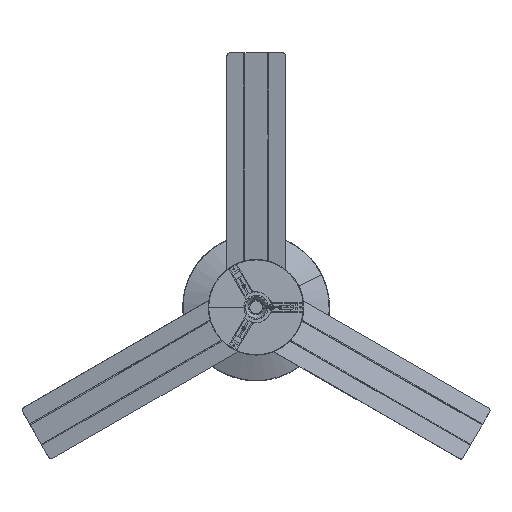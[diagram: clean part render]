
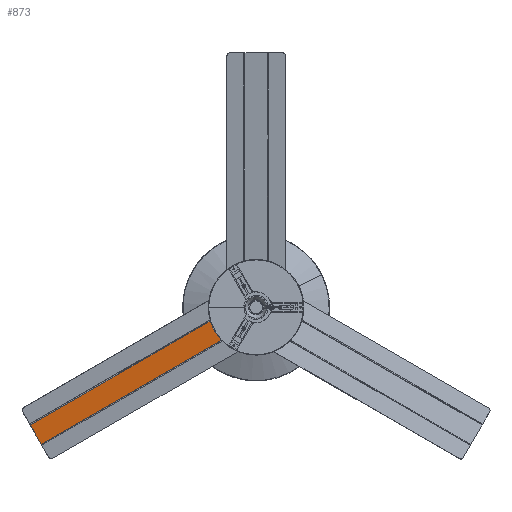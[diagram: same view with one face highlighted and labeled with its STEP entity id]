
A CAD part, top view. The second image highlights one B-rep face of the part: STEP entity #873.
In plain terms, the highlighted planar face has unit normal (0.113, -0.195, 0.974).
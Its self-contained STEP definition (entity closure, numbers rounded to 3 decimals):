
#181=FACE_BOUND('',#3090,.T.);
#873=ADVANCED_FACE('',(#1963,#181),#18264,.T.);
#1963=FACE_OUTER_BOUND('',#3089,.T.);
#3089=EDGE_LOOP('',(#7195,#7196,#7197,#7198));
#3090=EDGE_LOOP('',(#7199,#7200));
#7195=ORIENTED_EDGE('',*,*,#11264,.T.);
#7196=ORIENTED_EDGE('',*,*,#11252,.F.);
#7197=ORIENTED_EDGE('',*,*,#11253,.T.);
#7198=ORIENTED_EDGE('',*,*,#11254,.F.);
#7199=ORIENTED_EDGE('',*,*,#11210,.T.);
#7200=ORIENTED_EDGE('',*,*,#11212,.T.);
#11210=EDGE_CURVE('',#17207,#17206,#13255,.T.);
#11212=EDGE_CURVE('',#17206,#17207,#13256,.T.);
#11252=EDGE_CURVE('',#17158,#17165,#15469,.T.);
#11253=EDGE_CURVE('',#17158,#17157,#13263,.T.);
#11254=EDGE_CURVE('',#17221,#17157,#15470,.T.);
#11264=EDGE_CURVE('',#17221,#17165,#15477,.T.);
#13255=TRIMMED_CURVE($,#13911,(#34422),(#34423),.T.,.CARTESIAN.);
#13256=TRIMMED_CURVE($,#13912,(#34427),(#34428),.T.,.CARTESIAN.);
#13263=TRIMMED_CURVE($,#13919,(#34547),(#34548),.T.,.CARTESIAN.);
#13911=CIRCLE('',#19978,2.6);
#13912=CIRCLE('',#19979,2.6);
#13919=CIRCLE('',#19986,56.);
#15469=B_SPLINE_CURVE_WITH_KNOTS('',1,(#34544,#34545),.UNSPECIFIED.,.F.,
 .F.,(2,2),(-479.414,0.),.UNSPECIFIED.);
#15470=B_SPLINE_CURVE_WITH_KNOTS('',1,(#34549,#34550),.UNSPECIFIED.,.F.,
 .F.,(2,2),(-479.372,0.),.UNSPECIFIED.);
#15477=B_SPLINE_CURVE_WITH_KNOTS('',1,(#34572,#34573),.UNSPECIFIED.,.F.,
 .F.,(2,2),(-48.,0.),.UNSPECIFIED.);
#17157=VERTEX_POINT('',#34058);
#17158=VERTEX_POINT('',#34059);
#17165=VERTEX_POINT('',#34066);
#17206=VERTEX_POINT('',#34107);
#17207=VERTEX_POINT('',#34108);
#17221=VERTEX_POINT('',#34122);
#18264=PLANE('',#19962);
#19962=AXIS2_PLACEMENT_3D('',#33994,#22006,$);
#19978=AXIS2_PLACEMENT_3D($,#34421,#22032,#22033);
#19979=AXIS2_PLACEMENT_3D($,#34426,#22034,#22035);
#19986=AXIS2_PLACEMENT_3D($,#34546,#22048,#22049);
#22006=DIRECTION('',(0.112,-0.195,0.974));
#22032=DIRECTION('',(-0.112,0.195,-0.974));
#22033=DIRECTION('',(0.487,-0.844,-0.225));
#22034=DIRECTION('',(-0.112,0.195,-0.974));
#22035=DIRECTION('',(-0.487,0.844,0.225));
#22048=DIRECTION('',(-0.112,0.195,-0.974));
#22049=DIRECTION('',(-0.573,-0.814,-0.097));
#33994=CARTESIAN_POINT('',(19472.154,-6665.833,72.907));
#34058=CARTESIAN_POINT('',(19931.334,-6406.288,71.795));
#34059=CARTESIAN_POINT('',(19954.754,-6446.771,60.998));
#34066=CARTESIAN_POINT('',(19539.57,-6686.478,60.998));
#34107=CARTESIAN_POINT('',(19927.55,-6432.5,66.991));
#34108=CARTESIAN_POINT('',(19930.084,-6436.888,65.821));
#34122=CARTESIAN_POINT('',(19516.185,-6645.974,71.795));
#34421=CARTESIAN_POINT('',(19928.817,-6434.694,66.406));
#34422=CARTESIAN_POINT('',(19930.084,-6436.888,65.821));
#34423=CARTESIAN_POINT('',(19927.55,-6432.5,66.991));
#34426=CARTESIAN_POINT('',(19928.817,-6434.694,66.406));
#34427=CARTESIAN_POINT('',(19927.55,-6432.5,66.991));
#34428=CARTESIAN_POINT('',(19930.084,-6436.888,65.821));
#34544=CARTESIAN_POINT('',(19954.754,-6446.771,60.998));
#34545=CARTESIAN_POINT('',(19539.57,-6686.478,60.998));
#34546=CARTESIAN_POINT('',(19986.841,-6401.194,66.406));
#34547=CARTESIAN_POINT('',(19954.754,-6446.771,60.998));
#34548=CARTESIAN_POINT('',(19931.334,-6406.288,71.795));
#34549=CARTESIAN_POINT('',(19516.185,-6645.974,71.795));
#34550=CARTESIAN_POINT('',(19931.334,-6406.288,71.795));
#34572=CARTESIAN_POINT('',(19516.185,-6645.974,71.795));
#34573=CARTESIAN_POINT('',(19539.57,-6686.478,60.998));
